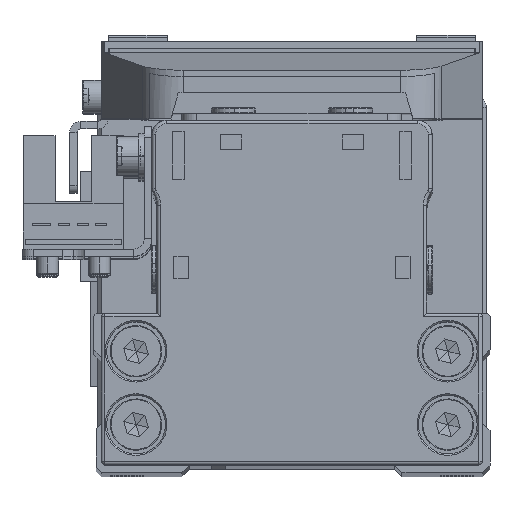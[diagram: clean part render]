
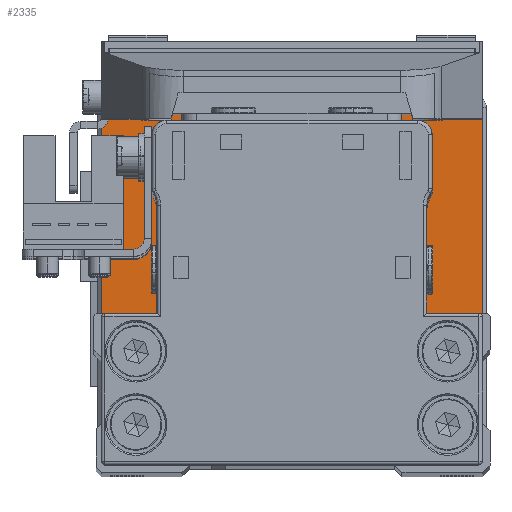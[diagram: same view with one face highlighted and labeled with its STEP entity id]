
A CAD part, top view. The second image highlights one B-rep face of the part: STEP entity #2335.
In plain terms, the highlighted planar face has unit normal (0, 0, 1).
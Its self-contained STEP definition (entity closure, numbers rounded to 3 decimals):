
#37 = ORIENTED_EDGE ( 'NONE', *, *, #15809, .T. ) ;
#962 = VERTEX_POINT ( 'NONE', #5114 ) ;
#1288 = DIRECTION ( 'NONE',  ( 1., 0., 0. ) ) ;
#1400 = DIRECTION ( 'NONE',  ( 0., 0., -1. ) ) ;
#1486 = VERTEX_POINT ( 'NONE', #18380 ) ;
#1698 = CARTESIAN_POINT ( 'NONE',  ( 25., -24.95, 6.5 ) ) ;
#2061 = AXIS2_PLACEMENT_3D ( 'NONE', #24816, #1400, #11823 ) ;
#2142 = AXIS2_PLACEMENT_3D ( 'NONE', #26249, #2820, #13256 ) ;
#2221 = ORIENTED_EDGE ( 'NONE', *, *, #6558, .T. ) ;
#2335 = ADVANCED_FACE ( 'NONE', ( #8002, #18433, #28867, #5441, #15890 ), #26320, .T. ) ;
#2478 = DIRECTION ( 'NONE',  ( 0., 0., -1. ) ) ;
#2820 = DIRECTION ( 'NONE',  ( 0., 0., -1. ) ) ;
#2890 = CARTESIAN_POINT ( 'NONE',  ( 0., 0., 6.5 ) ) ;
#3260 = VECTOR ( 'NONE', #12125, 1000. ) ;
#3363 = DIRECTION ( 'NONE',  ( -1., 0., 0. ) ) ;
#3467 = CARTESIAN_POINT ( 'NONE',  ( 25., 23.95, 6.5 ) ) ;
#3599 = AXIS2_PLACEMENT_3D ( 'NONE', #25910, #2478, #12913 ) ;
#3737 = ORIENTED_EDGE ( 'NONE', *, *, #31927, .T. ) ;
#4106 = VERTEX_POINT ( 'NONE', #10449 ) ;
#4111 = VERTEX_POINT ( 'NONE', #5296 ) ;
#4288 = CARTESIAN_POINT ( 'NONE',  ( 18.85, 19.95, 6.5 ) ) ;
#4888 = CARTESIAN_POINT ( 'NONE',  ( -25., -23.95, 6.5 ) ) ;
#5046 = DIRECTION ( 'NONE',  ( -1., 0., 0. ) ) ;
#5108 = CARTESIAN_POINT ( 'NONE',  ( 23.65, 19.95, 6.5 ) ) ;
#5114 = CARTESIAN_POINT ( 'NONE',  ( -23.65, 9.95, 6.5 ) ) ;
#5262 = EDGE_CURVE ( 'NONE', #16381, #14321, #23497, .T. ) ;
#5288 = ORIENTED_EDGE ( 'NONE', *, *, #22860, .T. ) ;
#5296 = CARTESIAN_POINT ( 'NONE',  ( 18.85, 9.95, 6.5 ) ) ;
#5441 = FACE_BOUND ( 'NONE', #16142, .T. ) ;
#5493 = AXIS2_PLACEMENT_3D ( 'NONE', #18031, #28473, #5046 ) ;
#5558 = VECTOR ( 'NONE', #20291, 1000. ) ;
#5699 = CARTESIAN_POINT ( 'NONE',  ( -26., -23.95, 6.5 ) ) ;
#6293 = CARTESIAN_POINT ( 'NONE',  ( -26., 23.95, 6.5 ) ) ;
#6483 = AXIS2_PLACEMENT_3D ( 'NONE', #30474, #7057, #17497 ) ;
#6558 = EDGE_CURVE ( 'NONE', #24737, #12153, #8625, .T. ) ;
#6701 = CARTESIAN_POINT ( 'NONE',  ( 21.25, 19.95, 6.5 ) ) ;
#7017 = EDGE_CURVE ( 'NONE', #8437, #24737, #31006, .T. ) ;
#7057 = DIRECTION ( 'NONE',  ( 0., 0., 1. ) ) ;
#8002 = FACE_BOUND ( 'NONE', #19722, .T. ) ;
#8437 = VERTEX_POINT ( 'NONE', #19440 ) ;
#8625 = LINE ( 'NONE', #19062, #12250 ) ;
#8641 = EDGE_CURVE ( 'NONE', #15784, #11231, #14030, .T. ) ;
#8750 = AXIS2_PLACEMENT_3D ( 'NONE', #14269, #24705, #1288 ) ;
#9304 = DIRECTION ( 'NONE',  ( 0., 0., -1. ) ) ;
#9695 = CARTESIAN_POINT ( 'NONE',  ( -25., -24.95, 6.5 ) ) ;
#9858 = CARTESIAN_POINT ( 'NONE',  ( 26., 23.95, 6.5 ) ) ;
#9862 = VECTOR ( 'NONE', #10349, 1000. ) ;
#10215 = ORIENTED_EDGE ( 'NONE', *, *, #30917, .T. ) ;
#10349 = DIRECTION ( 'NONE',  ( 0., -1., 0. ) ) ;
#10449 = CARTESIAN_POINT ( 'NONE',  ( -18.85, 19.95, 6.5 ) ) ;
#10722 = ORIENTED_EDGE ( 'NONE', *, *, #19905, .T. ) ;
#10952 = CARTESIAN_POINT ( 'NONE',  ( -21.25, 9.95, 6.5 ) ) ;
#11231 = VERTEX_POINT ( 'NONE', #9695 ) ;
#11823 = DIRECTION ( 'NONE',  ( -1., 0., 0. ) ) ;
#12125 = DIRECTION ( 'NONE',  ( 1., 0., 0. ) ) ;
#12153 = VERTEX_POINT ( 'NONE', #15852 ) ;
#12250 = VECTOR ( 'NONE', #29494, 1000. ) ;
#12658 = ORIENTED_EDGE ( 'NONE', *, *, #5262, .T. ) ;
#12691 = EDGE_CURVE ( 'NONE', #4106, #1486, #16805, .T. ) ;
#12913 = DIRECTION ( 'NONE',  ( -1., 0., 0. ) ) ;
#13256 = DIRECTION ( 'NONE',  ( -1., 0., 0. ) ) ;
#13324 = DIRECTION ( 'NONE',  ( 0., 0., 1. ) ) ;
#13673 = AXIS2_PLACEMENT_3D ( 'NONE', #32715, #9304, #19736 ) ;
#13761 = AXIS2_PLACEMENT_3D ( 'NONE', #2890, #13324, #23744 ) ;
#13897 = DIRECTION ( 'NONE',  ( 0., 0., 1. ) ) ;
#14030 = CIRCLE ( 'NONE', #33128, 1. ) ;
#14269 = CARTESIAN_POINT ( 'NONE',  ( 25., -23.95, 6.5 ) ) ;
#14321 = VERTEX_POINT ( 'NONE', #33555 ) ;
#15112 = ORIENTED_EDGE ( 'NONE', *, *, #17809, .T. ) ;
#15253 = EDGE_CURVE ( 'NONE', #4111, #19881, #18337, .T. ) ;
#15329 = DIRECTION ( 'NONE',  ( 0., 0., 1. ) ) ;
#15585 = AXIS2_PLACEMENT_3D ( 'NONE', #6701, #17125, #27558 ) ;
#15735 = ORIENTED_EDGE ( 'NONE', *, *, #8641, .T. ) ;
#15784 = VERTEX_POINT ( 'NONE', #5699 ) ;
#15809 = EDGE_CURVE ( 'NONE', #12153, #20857, #21224, .T. ) ;
#15852 = CARTESIAN_POINT ( 'NONE',  ( -25., 24.95, 6.5 ) ) ;
#15890 = FACE_OUTER_BOUND ( 'NONE', #26919, .T. ) ;
#16142 = EDGE_LOOP ( 'NONE', ( #23395, #20444 ) ) ;
#16368 = CARTESIAN_POINT ( 'NONE',  ( -21.25, 9.95, 6.5 ) ) ;
#16381 = VERTEX_POINT ( 'NONE', #20872 ) ;
#16750 = EDGE_CURVE ( 'NONE', #11231, #16381, #25110, .T. ) ;
#16805 = CIRCLE ( 'NONE', #2061, 2.4 ) ;
#16886 = CIRCLE ( 'NONE', #2142, 2.4 ) ;
#17125 = DIRECTION ( 'NONE',  ( 0., 0., -1. ) ) ;
#17497 = DIRECTION ( 'NONE',  ( 1., 0., 0. ) ) ;
#17634 = CIRCLE ( 'NONE', #22004, 2.4 ) ;
#17809 = EDGE_CURVE ( 'NONE', #22099, #962, #17634, .T. ) ;
#18031 = CARTESIAN_POINT ( 'NONE',  ( 21.25, 9.95, 6.5 ) ) ;
#18337 = CIRCLE ( 'NONE', #3599, 2.4 ) ;
#18380 = CARTESIAN_POINT ( 'NONE',  ( -23.65, 19.95, 6.5 ) ) ;
#18433 = FACE_BOUND ( 'NONE', #21605, .T. ) ;
#18491 = CARTESIAN_POINT ( 'NONE',  ( -18.85, 9.95, 6.5 ) ) ;
#18544 = AXIS2_PLACEMENT_3D ( 'NONE', #16368, #26796, #3363 ) ;
#19062 = CARTESIAN_POINT ( 'NONE',  ( -25., 24.95, 6.5 ) ) ;
#19440 = CARTESIAN_POINT ( 'NONE',  ( 26., 23.95, 6.5 ) ) ;
#19722 = EDGE_LOOP ( 'NONE', ( #10215, #30576 ) ) ;
#19736 = DIRECTION ( 'NONE',  ( -1., 0., 0. ) ) ;
#19881 = VERTEX_POINT ( 'NONE', #33092 ) ;
#19905 = EDGE_CURVE ( 'NONE', #14321, #8437, #33263, .T. ) ;
#20233 = CIRCLE ( 'NONE', #5493, 2.4 ) ;
#20291 = DIRECTION ( 'NONE',  ( 0., 1., 0. ) ) ;
#20444 = ORIENTED_EDGE ( 'NONE', *, *, #12691, .T. ) ;
#20640 = AXIS2_PLACEMENT_3D ( 'NONE', #3467, #13897, #24325 ) ;
#20857 = VERTEX_POINT ( 'NONE', #6293 ) ;
#20872 = CARTESIAN_POINT ( 'NONE',  ( 25., -24.95, 6.5 ) ) ;
#21224 = CIRCLE ( 'NONE', #6483, 1. ) ;
#21388 = DIRECTION ( 'NONE',  ( 0., 0., -1. ) ) ;
#21605 = EDGE_LOOP ( 'NONE', ( #27710, #31643 ) ) ;
#21775 = EDGE_LOOP ( 'NONE', ( #3737, #15112 ) ) ;
#22004 = AXIS2_PLACEMENT_3D ( 'NONE', #10952, #21388, #31807 ) ;
#22099 = VERTEX_POINT ( 'NONE', #18491 ) ;
#22848 = EDGE_CURVE ( 'NONE', #19881, #4111, #20233, .T. ) ;
#22860 = EDGE_CURVE ( 'NONE', #20857, #15784, #23336, .T. ) ;
#23336 = LINE ( 'NONE', #33752, #9862 ) ;
#23395 = ORIENTED_EDGE ( 'NONE', *, *, #32525, .T. ) ;
#23497 = CIRCLE ( 'NONE', #8750, 1. ) ;
#23671 = EDGE_CURVE ( 'NONE', #27600, #31106, #30313, .T. ) ;
#23744 = DIRECTION ( 'NONE',  ( 1., 0., 0. ) ) ;
#24325 = DIRECTION ( 'NONE',  ( 1., 0., 0. ) ) ;
#24613 = ORIENTED_EDGE ( 'NONE', *, *, #16750, .T. ) ;
#24705 = DIRECTION ( 'NONE',  ( 0., 0., 1. ) ) ;
#24737 = VERTEX_POINT ( 'NONE', #29895 ) ;
#24816 = CARTESIAN_POINT ( 'NONE',  ( -21.25, 19.95, 6.5 ) ) ;
#25110 = LINE ( 'NONE', #1698, #3260 ) ;
#25758 = DIRECTION ( 'NONE',  ( 1., 0., 0. ) ) ;
#25910 = CARTESIAN_POINT ( 'NONE',  ( 21.25, 9.95, 6.5 ) ) ;
#26249 = CARTESIAN_POINT ( 'NONE',  ( 21.25, 19.95, 6.5 ) ) ;
#26320 = PLANE ( 'NONE',  #13761 ) ;
#26796 = DIRECTION ( 'NONE',  ( 0., 0., -1. ) ) ;
#26919 = EDGE_LOOP ( 'NONE', ( #37, #5288, #15735, #24613, #12658, #10722, #28536, #2221 ) ) ;
#27558 = DIRECTION ( 'NONE',  ( -1., 0., 0. ) ) ;
#27600 = VERTEX_POINT ( 'NONE', #5108 ) ;
#27710 = ORIENTED_EDGE ( 'NONE', *, *, #15253, .T. ) ;
#28413 = CIRCLE ( 'NONE', #13673, 2.4 ) ;
#28473 = DIRECTION ( 'NONE',  ( 0., 0., -1. ) ) ;
#28536 = ORIENTED_EDGE ( 'NONE', *, *, #7017, .T. ) ;
#28867 = FACE_BOUND ( 'NONE', #21775, .T. ) ;
#29494 = DIRECTION ( 'NONE',  ( -1., 0., 0. ) ) ;
#29895 = CARTESIAN_POINT ( 'NONE',  ( 25., 24.95, 6.5 ) ) ;
#30313 = CIRCLE ( 'NONE', #15585, 2.4 ) ;
#30474 = CARTESIAN_POINT ( 'NONE',  ( -25., 23.95, 6.5 ) ) ;
#30576 = ORIENTED_EDGE ( 'NONE', *, *, #23671, .T. ) ;
#30917 = EDGE_CURVE ( 'NONE', #31106, #27600, #16886, .T. ) ;
#31006 = CIRCLE ( 'NONE', #20640, 1. ) ;
#31106 = VERTEX_POINT ( 'NONE', #4288 ) ;
#31643 = ORIENTED_EDGE ( 'NONE', *, *, #22848, .T. ) ;
#31807 = DIRECTION ( 'NONE',  ( -1., 0., 0. ) ) ;
#31927 = EDGE_CURVE ( 'NONE', #962, #22099, #33275, .T. ) ;
#32525 = EDGE_CURVE ( 'NONE', #1486, #4106, #28413, .T. ) ;
#32715 = CARTESIAN_POINT ( 'NONE',  ( -21.25, 19.95, 6.5 ) ) ;
#33092 = CARTESIAN_POINT ( 'NONE',  ( 23.65, 9.95, 6.5 ) ) ;
#33128 = AXIS2_PLACEMENT_3D ( 'NONE', #4888, #15329, #25758 ) ;
#33263 = LINE ( 'NONE', #9858, #5558 ) ;
#33275 = CIRCLE ( 'NONE', #18544, 2.4 ) ;
#33555 = CARTESIAN_POINT ( 'NONE',  ( 26., -23.95, 6.5 ) ) ;
#33752 = CARTESIAN_POINT ( 'NONE',  ( -26., -23.95, 6.5 ) ) ;
